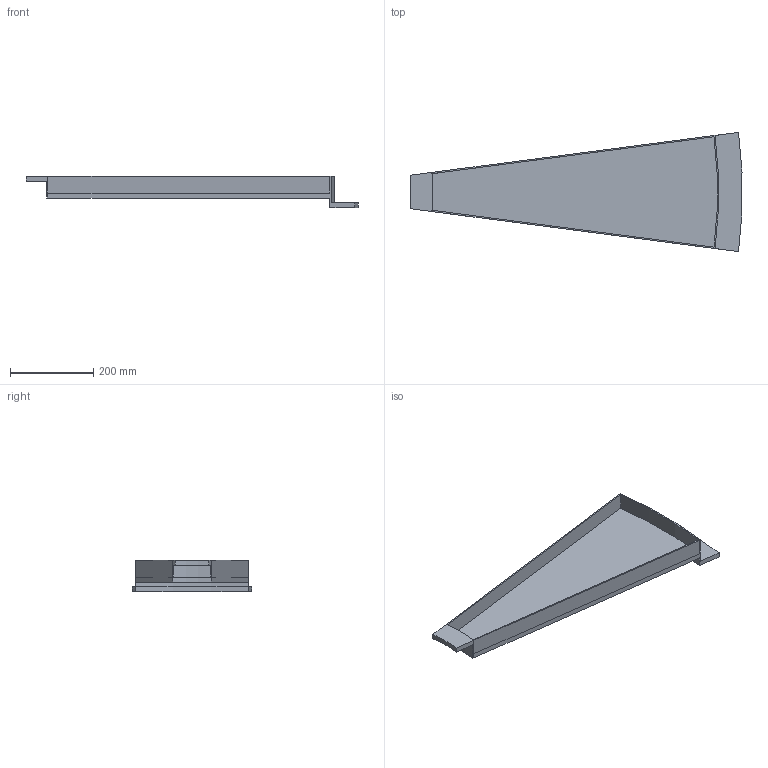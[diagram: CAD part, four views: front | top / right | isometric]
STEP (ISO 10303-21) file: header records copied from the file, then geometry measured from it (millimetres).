
FILE_DESCRIPTION(('Open CASCADE Model'),'2;1');
FILE_NAME('Open CASCADE Shape Model','2026-09-07T11:14:14',('Author'),( 'Open CASCADE'),'Open CASCADE STEP processor 7.9','Open CASCADE 7.9' ,'Unknown');
FILE_SCHEMA(('AUTOMOTIVE_DESIGN { 1 0 10303 214 1 1 1 1 }'));
Length unit declared in the file: millimetre
Products named in the file (1): Open CASCADE STEP translator 7.9 20
Bounding box: 798.58 x 286.89 x 75 mm (x, y, z)
Volume: 1988006.7 mm3; surface area: 468967.7 mm2
Topology: 1 solids, 1 shells, 24 faces, 60 edges, 38 vertices
Faces by surface type: plane 17, cylinder 7
Entity records: 1516 total; most frequent: CARTESIAN_POINT 303, DIRECTION 224, LINE 140, VECTOR 140, ORIENTED_EDGE 124, PCURVE 120, DEFINITIONAL_REPRESENTATION 120, EDGE_CURVE 60
